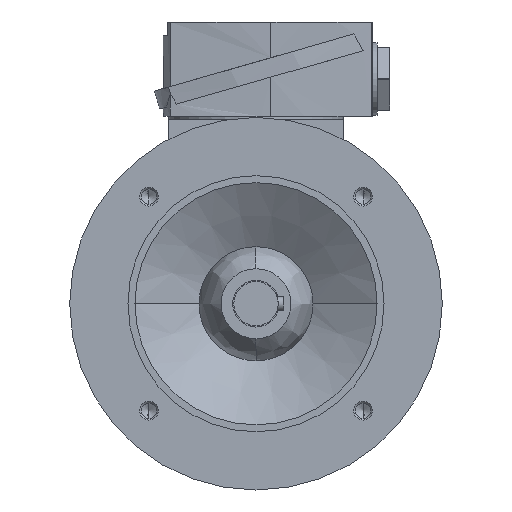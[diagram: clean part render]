
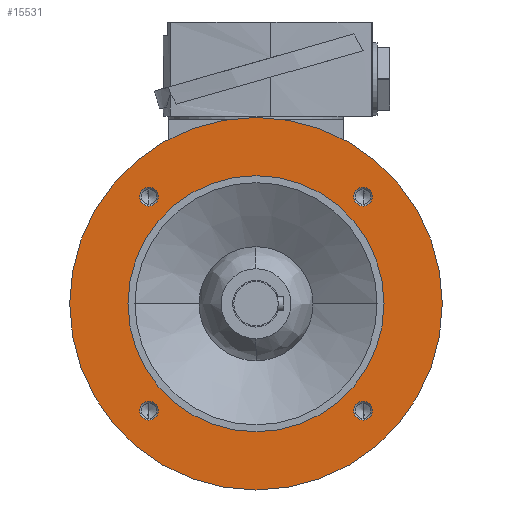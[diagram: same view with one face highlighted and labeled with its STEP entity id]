
A CAD part, left-side view. The second image highlights one B-rep face of the part: STEP entity #15531.
In plain terms, the highlighted planar face has unit normal (-1, 0, 0).
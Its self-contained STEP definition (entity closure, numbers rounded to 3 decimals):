
#50 = CIRCLE ( 'NONE', #18345, 4. ) ;
#54 = CIRCLE ( 'NONE', #18347, 4. ) ;
#55 = CIRCLE ( 'NONE', #18348, 55. ) ;
#1809 = VERTEX_POINT ( 'NONE', #14308 ) ;
#1831 = VERTEX_POINT ( 'NONE', #14330 ) ;
#2293 = CIRCLE ( 'NONE', #19448, 80. ) ;
#2689 = EDGE_CURVE ( 'NONE', #1831, #1809, #2293, .T. ) ;
#3339 = CARTESIAN_POINT ( 'NONE',  ( -27., 0., -55. ) ) ;
#3340 = CARTESIAN_POINT ( 'NONE',  ( -27., 0., 55. ) ) ;
#3356 = CARTESIAN_POINT ( 'NONE',  ( -27., -45.962, 49.962 ) ) ;
#3357 = CARTESIAN_POINT ( 'NONE',  ( -27., -45.962, 41.962 ) ) ;
#3360 = CARTESIAN_POINT ( 'NONE',  ( -27., 45.962, 49.962 ) ) ;
#3361 = CARTESIAN_POINT ( 'NONE',  ( -27., 45.962, 41.962 ) ) ;
#3364 = CARTESIAN_POINT ( 'NONE',  ( -27., 45.962, -41.962 ) ) ;
#3365 = CARTESIAN_POINT ( 'NONE',  ( -27., 45.962, -49.962 ) ) ;
#3368 = CARTESIAN_POINT ( 'NONE',  ( -27., -45.962, -41.962 ) ) ;
#3369 = CARTESIAN_POINT ( 'NONE',  ( -27., -45.962, -49.962 ) ) ;
#3826 = CARTESIAN_POINT ( 'NONE',  ( -27., -45.962, -45.962 ) ) ;
#3827 = DIRECTION ( 'NONE',  ( 1., 0., 0. ) ) ;
#3828 = DIRECTION ( 'NONE',  ( 0., 0., 1. ) ) ;
#3829 = CARTESIAN_POINT ( 'NONE',  ( -27., 45.962, -45.962 ) ) ;
#3830 = DIRECTION ( 'NONE',  ( 1., 0., 0. ) ) ;
#3831 = DIRECTION ( 'NONE',  ( 0., 0., 1. ) ) ;
#3832 = CARTESIAN_POINT ( 'NONE',  ( -27., 45.962, 45.962 ) ) ;
#3833 = DIRECTION ( 'NONE',  ( 1., 0., 0. ) ) ;
#3834 = DIRECTION ( 'NONE',  ( 0., 0., 1. ) ) ;
#3835 = CARTESIAN_POINT ( 'NONE',  ( -27., -45.962, 45.962 ) ) ;
#3836 = DIRECTION ( 'NONE',  ( 1., 0., 0. ) ) ;
#3837 = DIRECTION ( 'NONE',  ( 0., 0., 1. ) ) ;
#3838 = CARTESIAN_POINT ( 'NONE',  ( -27., 0., 0. ) ) ;
#3839 = DIRECTION ( 'NONE',  ( 1., 0., 0. ) ) ;
#3840 = DIRECTION ( 'NONE',  ( 0., 0., 1. ) ) ;
#4828 = VERTEX_POINT ( 'NONE', #3339 ) ;
#4829 = VERTEX_POINT ( 'NONE', #3340 ) ;
#4845 = VERTEX_POINT ( 'NONE', #3356 ) ;
#4846 = VERTEX_POINT ( 'NONE', #3357 ) ;
#4849 = VERTEX_POINT ( 'NONE', #3360 ) ;
#4850 = VERTEX_POINT ( 'NONE', #3361 ) ;
#4853 = VERTEX_POINT ( 'NONE', #3364 ) ;
#4854 = VERTEX_POINT ( 'NONE', #3365 ) ;
#4857 = VERTEX_POINT ( 'NONE', #3368 ) ;
#4858 = VERTEX_POINT ( 'NONE', #3369 ) ;
#6046 = CARTESIAN_POINT ( 'NONE',  ( -27., -45.962, 45.962 ) ) ;
#6047 = DIRECTION ( 'NONE',  ( 1., 0., 0. ) ) ;
#6048 = DIRECTION ( 'NONE',  ( 0., 0., 1. ) ) ;
#6054 = CARTESIAN_POINT ( 'NONE',  ( -27., 45.962, 45.962 ) ) ;
#6055 = DIRECTION ( 'NONE',  ( 1., 0., 0. ) ) ;
#6056 = DIRECTION ( 'NONE',  ( 0., 0., 1. ) ) ;
#6058 = CARTESIAN_POINT ( 'NONE',  ( -27., 0., 0. ) ) ;
#6059 = DIRECTION ( 'NONE',  ( 1., 0., 0. ) ) ;
#6060 = DIRECTION ( 'NONE',  ( 0., 0., 1. ) ) ;
#7168 = EDGE_CURVE ( 'NONE', #4858, #4857, #20100, .T. ) ;
#7169 = EDGE_CURVE ( 'NONE', #4854, #4853, #20098, .T. ) ;
#7170 = EDGE_CURVE ( 'NONE', #4850, #4849, #20101, .T. ) ;
#7171 = EDGE_CURVE ( 'NONE', #4846, #4845, #20102, .T. ) ;
#7172 = EDGE_CURVE ( 'NONE', #4829, #4828, #20103, .T. ) ;
#7354 = EDGE_CURVE ( 'NONE', #1809, #1831, #20269, .T. ) ;
#8762 = FACE_BOUND ( 'NONE', #16442, .T. ) ;
#8767 = FACE_BOUND ( 'NONE', #16438, .T. ) ;
#8771 = FACE_BOUND ( 'NONE', #16439, .T. ) ;
#8772 = FACE_BOUND ( 'NONE', #16437, .T. ) ;
#8773 = FACE_OUTER_BOUND ( 'NONE', #16440, .T. ) ;
#8774 = FACE_BOUND ( 'NONE', #16441, .T. ) ;
#9767 = PLANE ( 'NONE',  #18389 ) ;
#9768 = DIRECTION ( 'NONE',  ( -1., 0., 0. ) ) ;
#9773 = CARTESIAN_POINT ( 'NONE',  ( -27., 0., 67.5 ) ) ;
#9774 = DIRECTION ( 'NONE',  ( 0., 0., 1. ) ) ;
#10416 = AXIS2_PLACEMENT_3D ( 'NONE', #12786, #12787, #12788 ) ;
#10418 = AXIS2_PLACEMENT_3D ( 'NONE', #12795, #12796, #12797 ) ;
#12786 = CARTESIAN_POINT ( 'NONE',  ( -27., 45.962, -45.962 ) ) ;
#12787 = DIRECTION ( 'NONE',  ( 1., 0., 0. ) ) ;
#12788 = DIRECTION ( 'NONE',  ( 0., 0., 1. ) ) ;
#12795 = CARTESIAN_POINT ( 'NONE',  ( -27., -45.962, -45.962 ) ) ;
#12796 = DIRECTION ( 'NONE',  ( 1., 0., 0. ) ) ;
#12797 = DIRECTION ( 'NONE',  ( 0., 0., 1. ) ) ;
#13388 = CIRCLE ( 'NONE', #10416, 4. ) ;
#13397 = CIRCLE ( 'NONE', #10418, 4. ) ;
#14308 = CARTESIAN_POINT ( 'NONE',  ( -27., 0., 80. ) ) ;
#14330 = CARTESIAN_POINT ( 'NONE',  ( -27., 0., -80. ) ) ;
#14579 = CARTESIAN_POINT ( 'NONE',  ( -27., 0., 0. ) ) ;
#14580 = DIRECTION ( 'NONE',  ( 1., 0., 0. ) ) ;
#14581 = DIRECTION ( 'NONE',  ( 0., 0., 1. ) ) ;
#15292 = EDGE_CURVE ( 'NONE', #4845, #4846, #50, .T. ) ;
#15295 = EDGE_CURVE ( 'NONE', #4849, #4850, #54, .T. ) ;
#15296 = EDGE_CURVE ( 'NONE', #4828, #4829, #55, .T. ) ;
#15531 = ADVANCED_FACE ( 'NONE', ( #8771, #8773, #8762, #8772, #8767, #8774 ), #9767, .T. ) ;
#15762 = ORIENTED_EDGE ( 'NONE', *, *, #7172, .T. ) ;
#15763 = ORIENTED_EDGE ( 'NONE', *, *, #15296, .T. ) ;
#15764 = ORIENTED_EDGE ( 'NONE', *, *, #7354, .F. ) ;
#15765 = ORIENTED_EDGE ( 'NONE', *, *, #2689, .F. ) ;
#15766 = ORIENTED_EDGE ( 'NONE', *, *, #15292, .T. ) ;
#15767 = ORIENTED_EDGE ( 'NONE', *, *, #7171, .T. ) ;
#15768 = ORIENTED_EDGE ( 'NONE', *, *, #15295, .T. ) ;
#15769 = ORIENTED_EDGE ( 'NONE', *, *, #7170, .T. ) ;
#15770 = ORIENTED_EDGE ( 'NONE', *, *, #19965, .T. ) ;
#15771 = ORIENTED_EDGE ( 'NONE', *, *, #7169, .T. ) ;
#15772 = ORIENTED_EDGE ( 'NONE', *, *, #19969, .T. ) ;
#15773 = ORIENTED_EDGE ( 'NONE', *, *, #7168, .T. ) ;
#16437 = EDGE_LOOP ( 'NONE', ( #15768, #15769 ) ) ;
#16438 = EDGE_LOOP ( 'NONE', ( #15770, #15771 ) ) ;
#16439 = EDGE_LOOP ( 'NONE', ( #15762, #15763 ) ) ;
#16440 = EDGE_LOOP ( 'NONE', ( #15764, #15765 ) ) ;
#16441 = EDGE_LOOP ( 'NONE', ( #15772, #15773 ) ) ;
#16442 = EDGE_LOOP ( 'NONE', ( #15766, #15767 ) ) ;
#18250 = AXIS2_PLACEMENT_3D ( 'NONE', #3826, #3827, #3828 ) ;
#18251 = AXIS2_PLACEMENT_3D ( 'NONE', #3829, #3830, #3831 ) ;
#18252 = AXIS2_PLACEMENT_3D ( 'NONE', #3832, #3833, #3834 ) ;
#18253 = AXIS2_PLACEMENT_3D ( 'NONE', #3835, #3836, #3837 ) ;
#18254 = AXIS2_PLACEMENT_3D ( 'NONE', #3838, #3839, #3840 ) ;
#18298 = AXIS2_PLACEMENT_3D ( 'NONE', #18680, #18681, #18682 ) ;
#18345 = AXIS2_PLACEMENT_3D ( 'NONE', #6046, #6047, #6048 ) ;
#18347 = AXIS2_PLACEMENT_3D ( 'NONE', #6054, #6055, #6056 ) ;
#18348 = AXIS2_PLACEMENT_3D ( 'NONE', #6058, #6059, #6060 ) ;
#18389 = AXIS2_PLACEMENT_3D ( 'NONE', #9773, #9768, #9774 ) ;
#18680 = CARTESIAN_POINT ( 'NONE',  ( -27., 0., 0. ) ) ;
#18681 = DIRECTION ( 'NONE',  ( 1., 0., 0. ) ) ;
#18682 = DIRECTION ( 'NONE',  ( 0., 0., 1. ) ) ;
#19448 = AXIS2_PLACEMENT_3D ( 'NONE', #14579, #14580, #14581 ) ;
#19965 = EDGE_CURVE ( 'NONE', #4853, #4854, #13388, .T. ) ;
#19969 = EDGE_CURVE ( 'NONE', #4857, #4858, #13397, .T. ) ;
#20098 = CIRCLE ( 'NONE', #18251, 4. ) ;
#20100 = CIRCLE ( 'NONE', #18250, 4. ) ;
#20101 = CIRCLE ( 'NONE', #18252, 4. ) ;
#20102 = CIRCLE ( 'NONE', #18253, 4. ) ;
#20103 = CIRCLE ( 'NONE', #18254, 55. ) ;
#20269 = CIRCLE ( 'NONE', #18298, 80. ) ;
